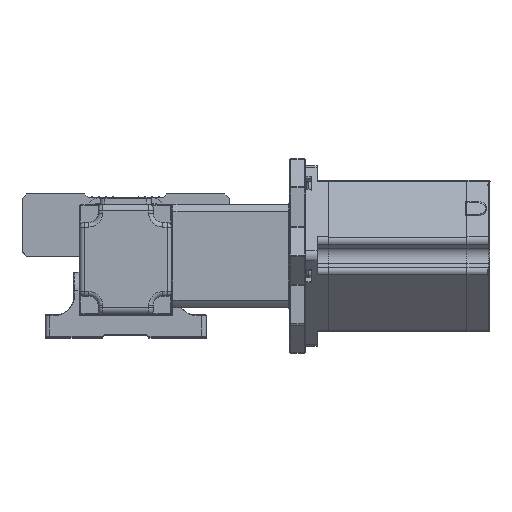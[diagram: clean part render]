
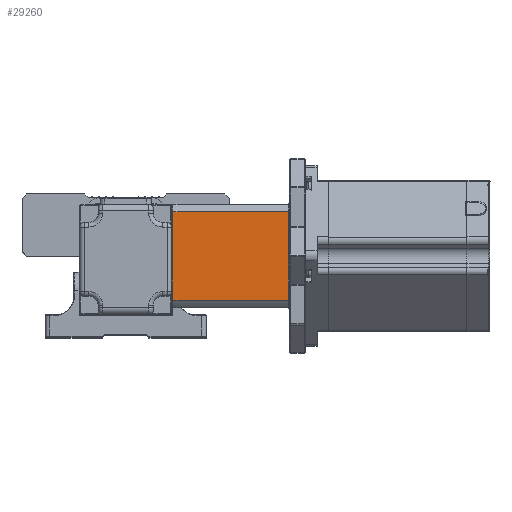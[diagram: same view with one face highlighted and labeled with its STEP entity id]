
A CAD part, top view. The second image highlights one B-rep face of the part: STEP entity #29260.
In plain terms, the highlighted planar face has unit normal (0, 0, 1) as drawn and (1, 0, 0) by its records, which use the part's own axes.
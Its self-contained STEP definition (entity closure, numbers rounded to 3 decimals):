
#706 = EDGE_CURVE ( 'NONE', #21328, #11964, #41919, .T. ) ;
#3367 = DIRECTION ( 'NONE',  ( 0., 0., 1. ) ) ;
#5005 = EDGE_CURVE ( 'NONE', #11964, #27939, #39329, .T. ) ;
#5142 = DIRECTION ( 'NONE',  ( 0., -1., 0. ) ) ;
#6381 = EDGE_CURVE ( 'NONE', #27939, #13341, #16296, .T. ) ;
#8690 = ORIENTED_EDGE ( 'NONE', *, *, #6381, .T. ) ;
#8773 = CARTESIAN_POINT ( 'NONE',  ( 25., -28., 22.5 ) ) ;
#10729 = CARTESIAN_POINT ( 'NONE',  ( 25., 22.5, 22.5 ) ) ;
#10853 = EDGE_CURVE ( 'NONE', #13341, #21328, #14260, .T. ) ;
#11181 = ORIENTED_EDGE ( 'NONE', *, *, #706, .T. ) ;
#11964 = VERTEX_POINT ( 'NONE', #13618 ) ;
#12021 = VECTOR ( 'NONE', #43498, 1000. ) ;
#13341 = VERTEX_POINT ( 'NONE', #25085 ) ;
#13618 = CARTESIAN_POINT ( 'NONE',  ( 25., -28., 19.164 ) ) ;
#14260 = LINE ( 'NONE', #27236, #41161 ) ;
#14504 = PLANE ( 'NONE',  #40881 ) ;
#16296 = LINE ( 'NONE', #20742, #12021 ) ;
#19486 = VECTOR ( 'NONE', #5142, 1000. ) ;
#20562 = DIRECTION ( 'NONE',  ( 1., 0., 0. ) ) ;
#20742 = CARTESIAN_POINT ( 'NONE',  ( 25., 22.5, -19.164 ) ) ;
#21328 = VERTEX_POINT ( 'NONE', #35787 ) ;
#22373 = DIRECTION ( 'NONE',  ( 0., 0., -1. ) ) ;
#24986 = CARTESIAN_POINT ( 'NONE',  ( 25., 22.5, 19.164 ) ) ;
#25085 = CARTESIAN_POINT ( 'NONE',  ( 25., 22., -19.164 ) ) ;
#26660 = VECTOR ( 'NONE', #22373, 1000. ) ;
#27236 = CARTESIAN_POINT ( 'NONE',  ( 25., 22., 22.5 ) ) ;
#27939 = VERTEX_POINT ( 'NONE', #33868 ) ;
#29260 = ADVANCED_FACE ( 'NONE', ( #41282 ), #14504, .T. ) ;
#33868 = CARTESIAN_POINT ( 'NONE',  ( 25., -28., -19.164 ) ) ;
#34168 = DIRECTION ( 'NONE',  ( 0., 0., 1. ) ) ;
#35787 = CARTESIAN_POINT ( 'NONE',  ( 25., 22., 19.164 ) ) ;
#36165 = EDGE_LOOP ( 'NONE', ( #8690, #36342, #11181, #42117 ) ) ;
#36342 = ORIENTED_EDGE ( 'NONE', *, *, #10853, .T. ) ;
#39329 = LINE ( 'NONE', #8773, #26660 ) ;
#40881 = AXIS2_PLACEMENT_3D ( 'NONE', #10729, #20562, #34168 ) ;
#41161 = VECTOR ( 'NONE', #3367, 1000. ) ;
#41282 = FACE_OUTER_BOUND ( 'NONE', #36165, .T. ) ;
#41919 = LINE ( 'NONE', #24986, #19486 ) ;
#42117 = ORIENTED_EDGE ( 'NONE', *, *, #5005, .T. ) ;
#43498 = DIRECTION ( 'NONE',  ( 0., 1., 0. ) ) ;
